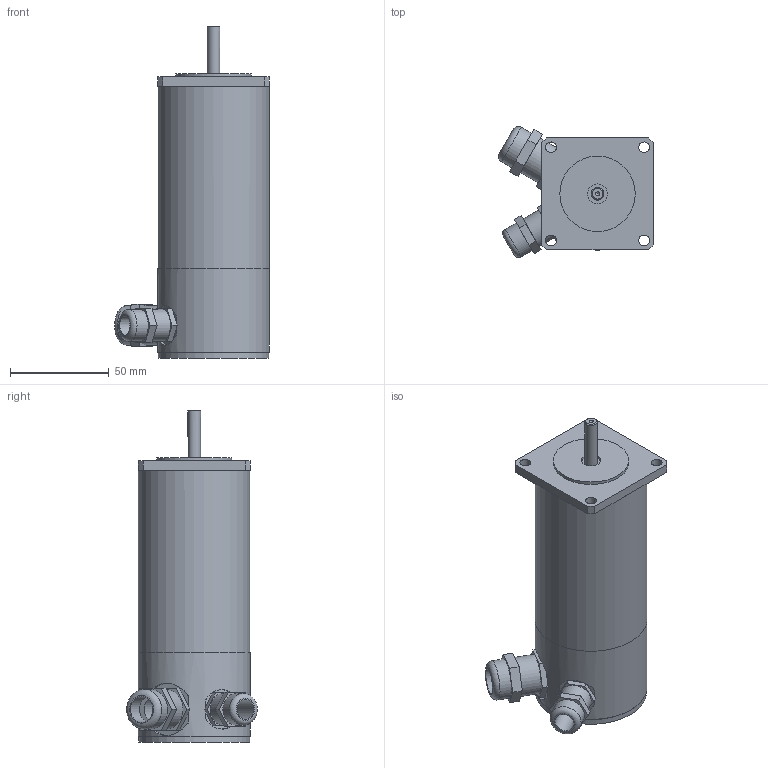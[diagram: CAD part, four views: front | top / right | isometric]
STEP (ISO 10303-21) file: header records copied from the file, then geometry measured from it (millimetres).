
FILE_DESCRIPTION((''),'2;1');
FILE_NAME('C:\Users\Reinhard\Documents\Inventor\Testschrittmotor\SM56\SM 56.3-E50-KV.stp','2012-11-14T20:53:10',('Reinhard'),(''),'Autodesk Inventor 2012','Autodesk Inventor 2012','');
FILE_SCHEMA(('CONFIG_CONTROL_DESIGN'));
Length unit declared in the file: millimetre
Products named in the file (1): SM 56
Bounding box: 78.27 x 66.07 x 167.7 mm (x, y, z)
Volume: 83914.7 mm3; surface area: 65102.2 mm2
Topology: 2 solids, 2 shells, 106 faces, 238 edges, 154 vertices
Faces by surface type: plane 70, cylinder 32, torus 2, cone 2
Full cylindrical faces by diameter (mm): 2 x1, 5.4 x4, 6.35 x2, 10 x2, 12 x2, 13 x2, 15 x2, 16 x2, 18.376 x1, 20 x3, 38.1 x1, 48 x1, 51.5 x1, 53.5 x1, 56 x1, 56.5 x2
Entity records: 2910 total; most frequent: CARTESIAN_POINT 585, DIRECTION 470, ORIENTED_EDGE 400, EDGE_CURVE 200, AXIS2_PLACEMENT_3D 173, EDGE_LOOP 172, VERTEX_POINT 148, VECTOR 124
